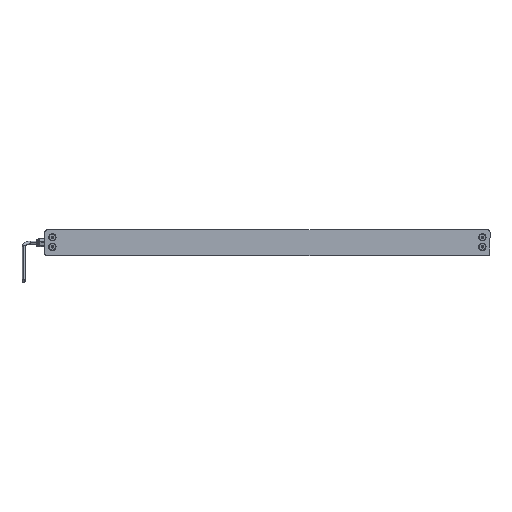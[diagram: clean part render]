
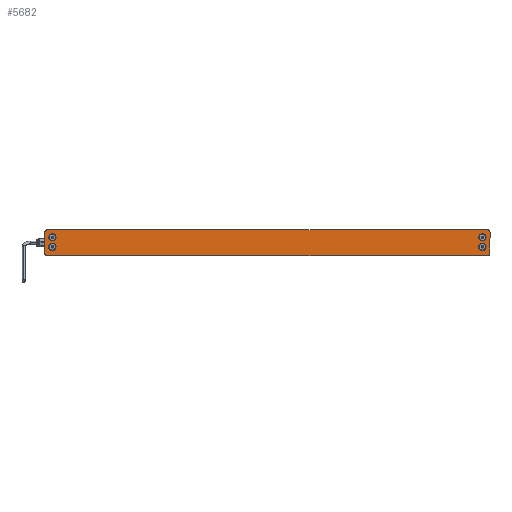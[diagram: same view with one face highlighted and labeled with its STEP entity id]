
A CAD part, left-side view. The second image highlights one B-rep face of the part: STEP entity #5682.
In plain terms, the highlighted planar face has unit normal (-1, 0, 0) as drawn and (0, 0, -1) by its records, which use the part's own axes.
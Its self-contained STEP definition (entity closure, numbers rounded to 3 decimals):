
#50 = LINE ( 'NONE', #1411, #1046 ) ;
#202 = DIRECTION ( 'NONE',  ( 0., 0., -1. ) ) ;
#203 = DIRECTION ( 'NONE',  ( 0., 1., 0. ) ) ;
#450 = CARTESIAN_POINT ( 'NONE',  ( -339., -20., 0. ) ) ;
#517 = DIRECTION ( 'NONE',  ( 0., 0., 1. ) ) ;
#540 = EDGE_CURVE ( 'NONE', #10588, #10678, #12497, .T. ) ;
#612 = CIRCLE ( 'NONE', #9318, 4. ) ;
#661 = EDGE_CURVE ( 'NONE', #7219, #1261, #12676, .T. ) ;
#692 = VERTEX_POINT ( 'NONE', #14892 ) ;
#718 = EDGE_CURVE ( 'NONE', #5284, #12783, #7011, .T. ) ;
#1046 = VECTOR ( 'NONE', #11770, 1000. ) ;
#1081 = CARTESIAN_POINT ( 'NONE',  ( -343., -16., 0. ) ) ;
#1144 = CARTESIAN_POINT ( 'NONE',  ( 325.7, 8.5, 0. ) ) ;
#1261 = VERTEX_POINT ( 'NONE', #11391 ) ;
#1281 = DIRECTION ( 'NONE',  ( -1., 0., 0. ) ) ;
#1411 = CARTESIAN_POINT ( 'NONE',  ( -343., -16., 0. ) ) ;
#1488 = EDGE_CURVE ( 'NONE', #15488, #6112, #50, .T. ) ;
#1756 = VERTEX_POINT ( 'NONE', #1144 ) ;
#1822 = DIRECTION ( 'NONE',  ( -1., 0., 0. ) ) ;
#1889 = CIRCLE ( 'NONE', #2430, 5.6 ) ;
#2031 = CARTESIAN_POINT ( 'NONE',  ( -339., 20., 0. ) ) ;
#2371 = CARTESIAN_POINT ( 'NONE',  ( 331.3, -6.3, 0. ) ) ;
#2430 = AXIS2_PLACEMENT_3D ( 'NONE', #8385, #7027, #6853 ) ;
#2474 = CIRCLE ( 'NONE', #11965, 4. ) ;
#2535 = DIRECTION ( 'NONE',  ( 0., 0., 1. ) ) ;
#2547 = FACE_BOUND ( 'NONE', #4980, .T. ) ;
#2652 = CARTESIAN_POINT ( 'NONE',  ( 339., -16., 0. ) ) ;
#2749 = CARTESIAN_POINT ( 'NONE',  ( -331.3, 8.5, 0. ) ) ;
#2824 = EDGE_LOOP ( 'NONE', ( #16371, #13326 ) ) ;
#2923 = CARTESIAN_POINT ( 'NONE',  ( -336.9, -6.3, 0. ) ) ;
#3065 = EDGE_CURVE ( 'NONE', #12783, #692, #2474, .T. ) ;
#3474 = CARTESIAN_POINT ( 'NONE',  ( 339., 20., 0. ) ) ;
#3486 = EDGE_CURVE ( 'NONE', #10337, #15488, #9606, .T. ) ;
#3657 = CARTESIAN_POINT ( 'NONE',  ( -331.3, -6.3, 0. ) ) ;
#3767 = DIRECTION ( 'NONE',  ( -1., 0., 0. ) ) ;
#3775 = AXIS2_PLACEMENT_3D ( 'NONE', #3898, #13583, #4396 ) ;
#3803 = DIRECTION ( 'NONE',  ( 0., 0., 1. ) ) ;
#3855 = EDGE_LOOP ( 'NONE', ( #14864, #8234, #14523, #14362, #8317, #8053, #14231, #14630 ) ) ;
#3898 = CARTESIAN_POINT ( 'NONE',  ( 339., 16., 0. ) ) ;
#3982 = DIRECTION ( 'NONE',  ( 0., 0., -1. ) ) ;
#4014 = LINE ( 'NONE', #14480, #5482 ) ;
#4130 = CARTESIAN_POINT ( 'NONE',  ( 343., 16., 0. ) ) ;
#4210 = ORIENTED_EDGE ( 'NONE', *, *, #10793, .F. ) ;
#4396 = DIRECTION ( 'NONE',  ( -1., 0., 0. ) ) ;
#4517 = VECTOR ( 'NONE', #12175, 1000. ) ;
#4631 = EDGE_LOOP ( 'NONE', ( #9833, #15204 ) ) ;
#4977 = VERTEX_POINT ( 'NONE', #11380 ) ;
#4980 = EDGE_LOOP ( 'NONE', ( #4210, #16360 ) ) ;
#4992 = CIRCLE ( 'NONE', #11253, 5.6 ) ;
#5001 = DIRECTION ( 'NONE',  ( -1., 0., 0. ) ) ;
#5222 = CARTESIAN_POINT ( 'NONE',  ( 339., -20., 0. ) ) ;
#5264 = PLANE ( 'NONE',  #3775 ) ;
#5284 = VERTEX_POINT ( 'NONE', #11181 ) ;
#5317 = CARTESIAN_POINT ( 'NONE',  ( -325.7, -6.3, 0. ) ) ;
#5364 = DIRECTION ( 'NONE',  ( 0., 0., 1. ) ) ;
#5447 = VERTEX_POINT ( 'NONE', #8107 ) ;
#5482 = VECTOR ( 'NONE', #203, 1000. ) ;
#5535 = DIRECTION ( 'NONE',  ( -1., 0., 0. ) ) ;
#5682 = ADVANCED_FACE ( 'NONE', ( #2547, #7754, #12916, #6551, #15553 ), #5264, .T. ) ;
#6085 = CIRCLE ( 'NONE', #13390, 5.6 ) ;
#6112 = VERTEX_POINT ( 'NONE', #1081 ) ;
#6372 = DIRECTION ( 'NONE',  ( 0., 0., -1. ) ) ;
#6427 = DIRECTION ( 'NONE',  ( 0., 0., -1. ) ) ;
#6551 = FACE_BOUND ( 'NONE', #10191, .T. ) ;
#6853 = DIRECTION ( 'NONE',  ( -1., 0., 0. ) ) ;
#6863 = VERTEX_POINT ( 'NONE', #3474 ) ;
#6953 = EDGE_CURVE ( 'NONE', #4977, #9612, #10811, .T. ) ;
#7011 = LINE ( 'NONE', #450, #4517 ) ;
#7027 = DIRECTION ( 'NONE',  ( 0., 0., -1. ) ) ;
#7219 = VERTEX_POINT ( 'NONE', #15913 ) ;
#7347 = AXIS2_PLACEMENT_3D ( 'NONE', #14096, #3803, #14179 ) ;
#7754 = FACE_BOUND ( 'NONE', #4631, .T. ) ;
#7786 = ORIENTED_EDGE ( 'NONE', *, *, #16553, .F. ) ;
#8053 = ORIENTED_EDGE ( 'NONE', *, *, #1488, .F. ) ;
#8107 = CARTESIAN_POINT ( 'NONE',  ( 336.9, 8.5, 0. ) ) ;
#8234 = ORIENTED_EDGE ( 'NONE', *, *, #14049, .F. ) ;
#8302 = CARTESIAN_POINT ( 'NONE',  ( 331.3, -6.3, 0. ) ) ;
#8317 = ORIENTED_EDGE ( 'NONE', *, *, #11842, .F. ) ;
#8385 = CARTESIAN_POINT ( 'NONE',  ( 331.3, 8.5, 0. ) ) ;
#8442 = CIRCLE ( 'NONE', #9258, 5.6 ) ;
#8788 = VECTOR ( 'NONE', #11207, 1000. ) ;
#8790 = AXIS2_PLACEMENT_3D ( 'NONE', #13596, #517, #15970 ) ;
#8879 = CARTESIAN_POINT ( 'NONE',  ( 331.3, 8.5, 0. ) ) ;
#9029 = EDGE_CURVE ( 'NONE', #9612, #4977, #6085, .T. ) ;
#9030 = DIRECTION ( 'NONE',  ( -1., 0., 0. ) ) ;
#9185 = CARTESIAN_POINT ( 'NONE',  ( 339., 16., 0. ) ) ;
#9256 = CIRCLE ( 'NONE', #7347, 4. ) ;
#9258 = AXIS2_PLACEMENT_3D ( 'NONE', #12789, #13894, #3767 ) ;
#9318 = AXIS2_PLACEMENT_3D ( 'NONE', #9185, #2535, #1281 ) ;
#9402 = DIRECTION ( 'NONE',  ( 0., 0., -1. ) ) ;
#9606 = CIRCLE ( 'NONE', #8790, 4. ) ;
#9612 = VERTEX_POINT ( 'NONE', #15050 ) ;
#9833 = ORIENTED_EDGE ( 'NONE', *, *, #6953, .F. ) ;
#9839 = AXIS2_PLACEMENT_3D ( 'NONE', #13102, #6427, #14150 ) ;
#10191 = EDGE_LOOP ( 'NONE', ( #16192, #7786 ) ) ;
#10290 = EDGE_CURVE ( 'NONE', #1261, #7219, #8442, .T. ) ;
#10337 = VERTEX_POINT ( 'NONE', #11350 ) ;
#10588 = VERTEX_POINT ( 'NONE', #2923 ) ;
#10678 = VERTEX_POINT ( 'NONE', #5317 ) ;
#10793 = EDGE_CURVE ( 'NONE', #1756, #5447, #1889, .T. ) ;
#10811 = CIRCLE ( 'NONE', #16241, 5.6 ) ;
#10992 = CIRCLE ( 'NONE', #15857, 5.6 ) ;
#11181 = CARTESIAN_POINT ( 'NONE',  ( -339., -20., 0. ) ) ;
#11207 = DIRECTION ( 'NONE',  ( -1., 0., 0. ) ) ;
#11253 = AXIS2_PLACEMENT_3D ( 'NONE', #8879, #16594, #12775 ) ;
#11350 = CARTESIAN_POINT ( 'NONE',  ( -339., 20., 0. ) ) ;
#11380 = CARTESIAN_POINT ( 'NONE',  ( 325.7, -6.3, 0. ) ) ;
#11391 = CARTESIAN_POINT ( 'NONE',  ( -325.7, 8.5, 0. ) ) ;
#11770 = DIRECTION ( 'NONE',  ( 0., -1., 0. ) ) ;
#11842 = EDGE_CURVE ( 'NONE', #6112, #5284, #9256, .T. ) ;
#11897 = CARTESIAN_POINT ( 'NONE',  ( -343., 16., 0. ) ) ;
#11965 = AXIS2_PLACEMENT_3D ( 'NONE', #2652, #5364, #13169 ) ;
#12175 = DIRECTION ( 'NONE',  ( 1., 0., 0. ) ) ;
#12390 = LINE ( 'NONE', #2031, #8788 ) ;
#12497 = CIRCLE ( 'NONE', #9839, 5.6 ) ;
#12676 = CIRCLE ( 'NONE', #15115, 5.6 ) ;
#12775 = DIRECTION ( 'NONE',  ( -1., 0., 0. ) ) ;
#12783 = VERTEX_POINT ( 'NONE', #5222 ) ;
#12789 = CARTESIAN_POINT ( 'NONE',  ( -331.3, 8.5, 0. ) ) ;
#12916 = FACE_BOUND ( 'NONE', #2824, .T. ) ;
#13102 = CARTESIAN_POINT ( 'NONE',  ( -331.3, -6.3, 0. ) ) ;
#13169 = DIRECTION ( 'NONE',  ( 1., 0., 0. ) ) ;
#13326 = ORIENTED_EDGE ( 'NONE', *, *, #10290, .F. ) ;
#13390 = AXIS2_PLACEMENT_3D ( 'NONE', #8302, #9402, #1822 ) ;
#13583 = DIRECTION ( 'NONE',  ( 0., 0., -1. ) ) ;
#13596 = CARTESIAN_POINT ( 'NONE',  ( -339., 16., 0. ) ) ;
#13721 = EDGE_CURVE ( 'NONE', #13741, #6863, #612, .T. ) ;
#13741 = VERTEX_POINT ( 'NONE', #4130 ) ;
#13894 = DIRECTION ( 'NONE',  ( 0., 0., -1. ) ) ;
#14049 = EDGE_CURVE ( 'NONE', #692, #13741, #4014, .T. ) ;
#14096 = CARTESIAN_POINT ( 'NONE',  ( -339., -16., 0. ) ) ;
#14150 = DIRECTION ( 'NONE',  ( -1., 0., 0. ) ) ;
#14179 = DIRECTION ( 'NONE',  ( -1., 0., 0. ) ) ;
#14231 = ORIENTED_EDGE ( 'NONE', *, *, #3486, .F. ) ;
#14362 = ORIENTED_EDGE ( 'NONE', *, *, #718, .F. ) ;
#14480 = CARTESIAN_POINT ( 'NONE',  ( 343., -16., 0. ) ) ;
#14523 = ORIENTED_EDGE ( 'NONE', *, *, #3065, .F. ) ;
#14630 = ORIENTED_EDGE ( 'NONE', *, *, #14924, .F. ) ;
#14864 = ORIENTED_EDGE ( 'NONE', *, *, #13721, .F. ) ;
#14892 = CARTESIAN_POINT ( 'NONE',  ( 343., -16., 0. ) ) ;
#14924 = EDGE_CURVE ( 'NONE', #6863, #10337, #12390, .T. ) ;
#15050 = CARTESIAN_POINT ( 'NONE',  ( 336.9, -6.3, 0. ) ) ;
#15115 = AXIS2_PLACEMENT_3D ( 'NONE', #2749, #202, #5535 ) ;
#15204 = ORIENTED_EDGE ( 'NONE', *, *, #9029, .F. ) ;
#15488 = VERTEX_POINT ( 'NONE', #11897 ) ;
#15553 = FACE_OUTER_BOUND ( 'NONE', #3855, .T. ) ;
#15857 = AXIS2_PLACEMENT_3D ( 'NONE', #3657, #3982, #9030 ) ;
#15913 = CARTESIAN_POINT ( 'NONE',  ( -336.9, 8.5, 0. ) ) ;
#15970 = DIRECTION ( 'NONE',  ( -1., 0., 0. ) ) ;
#16192 = ORIENTED_EDGE ( 'NONE', *, *, #540, .F. ) ;
#16195 = EDGE_CURVE ( 'NONE', #5447, #1756, #4992, .T. ) ;
#16241 = AXIS2_PLACEMENT_3D ( 'NONE', #2371, #6372, #5001 ) ;
#16360 = ORIENTED_EDGE ( 'NONE', *, *, #16195, .F. ) ;
#16371 = ORIENTED_EDGE ( 'NONE', *, *, #661, .F. ) ;
#16553 = EDGE_CURVE ( 'NONE', #10678, #10588, #10992, .T. ) ;
#16594 = DIRECTION ( 'NONE',  ( 0., 0., -1. ) ) ;
